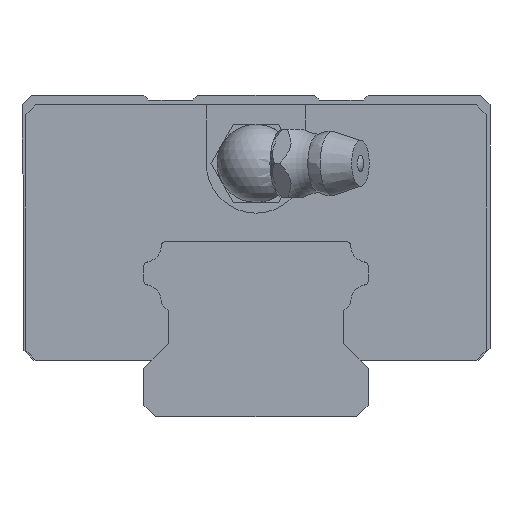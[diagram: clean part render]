
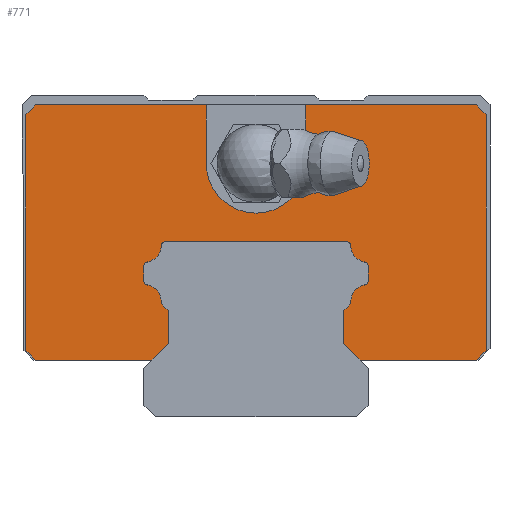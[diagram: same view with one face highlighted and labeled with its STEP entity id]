
A CAD part, front view. The second image highlights one B-rep face of the part: STEP entity #771.
In plain terms, the highlighted planar face has unit normal (0, -1, 0).
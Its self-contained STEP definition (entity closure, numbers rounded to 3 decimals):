
#564=CIRCLE('',#3371,0.5);
#566=CIRCLE('',#3374,1.7);
#568=CIRCLE('',#3377,0.5);
#570=CIRCLE('',#3381,0.5);
#572=CIRCLE('',#3384,1.7);
#574=CIRCLE('',#3387,0.5);
#576=CIRCLE('',#3391,0.5);
#578=CIRCLE('',#3394,1.7);
#580=CIRCLE('',#3397,0.5);
#582=CIRCLE('',#3401,0.5);
#584=CIRCLE('',#3404,1.7);
#586=CIRCLE('',#3407,0.5);
#609=CIRCLE('',#3481,5.1);
#771=ADVANCED_FACE('',(#1005),#884,.T.);
#884=PLANE('',#3482);
#1005=FACE_OUTER_BOUND('',#1214,.T.);
#1214=EDGE_LOOP('',(#1889,#1890,#1891,#1892,#1893,#1894,#1895,#1896,#1897,
#1898,#1899,#1900,#1901,#1902,#1903,#1904,#1905,#1906,#1907,#1908,#1909,
#1910,#1911,#1912,#1913,#1914,#1915,#1916,#1917,#1918,#1919,#1920,#1921,
#1922));
#1889=ORIENTED_EDGE('',*,*,#2560,.F.);
#1890=ORIENTED_EDGE('',*,*,#2563,.F.);
#1891=ORIENTED_EDGE('',*,*,#2566,.F.);
#1892=ORIENTED_EDGE('',*,*,#2569,.F.);
#1893=ORIENTED_EDGE('',*,*,#2572,.F.);
#1894=ORIENTED_EDGE('',*,*,#2575,.F.);
#1895=ORIENTED_EDGE('',*,*,#2578,.F.);
#1896=ORIENTED_EDGE('',*,*,#2581,.F.);
#1897=ORIENTED_EDGE('',*,*,#2584,.F.);
#1898=ORIENTED_EDGE('',*,*,#2587,.F.);
#1899=ORIENTED_EDGE('',*,*,#2590,.F.);
#1900=ORIENTED_EDGE('',*,*,#2593,.F.);
#1901=ORIENTED_EDGE('',*,*,#2596,.F.);
#1902=ORIENTED_EDGE('',*,*,#2599,.F.);
#1903=ORIENTED_EDGE('',*,*,#2602,.F.);
#1904=ORIENTED_EDGE('',*,*,#2605,.F.);
#1905=ORIENTED_EDGE('',*,*,#2608,.F.);
#1906=ORIENTED_EDGE('',*,*,#2611,.F.);
#1907=ORIENTED_EDGE('',*,*,#2614,.F.);
#1908=ORIENTED_EDGE('',*,*,#2617,.F.);
#1909=ORIENTED_EDGE('',*,*,#2620,.F.);
#1910=ORIENTED_EDGE('',*,*,#2625,.T.);
#1911=ORIENTED_EDGE('',*,*,#2663,.T.);
#1912=ORIENTED_EDGE('',*,*,#2660,.T.);
#1913=ORIENTED_EDGE('',*,*,#2665,.T.);
#1914=ORIENTED_EDGE('',*,*,#2671,.T.);
#1915=ORIENTED_EDGE('',*,*,#2681,.F.);
#1916=ORIENTED_EDGE('',*,*,#2682,.F.);
#1917=ORIENTED_EDGE('',*,*,#2683,.F.);
#1918=ORIENTED_EDGE('',*,*,#2667,.T.);
#1919=ORIENTED_EDGE('',*,*,#2672,.T.);
#1920=ORIENTED_EDGE('',*,*,#2656,.T.);
#1921=ORIENTED_EDGE('',*,*,#2662,.T.);
#1922=ORIENTED_EDGE('',*,*,#2556,.T.);
#2219=VERTEX_POINT('',#5018);
#2220=VERTEX_POINT('',#5020);
#2222=VERTEX_POINT('',#5026);
#2224=VERTEX_POINT('',#5032);
#2226=VERTEX_POINT('',#5038);
#2228=VERTEX_POINT('',#5044);
#2230=VERTEX_POINT('',#5050);
#2232=VERTEX_POINT('',#5056);
#2234=VERTEX_POINT('',#5062);
#2236=VERTEX_POINT('',#5068);
#2238=VERTEX_POINT('',#5074);
#2240=VERTEX_POINT('',#5080);
#2242=VERTEX_POINT('',#5086);
#2244=VERTEX_POINT('',#5092);
#2246=VERTEX_POINT('',#5098);
#2248=VERTEX_POINT('',#5104);
#2250=VERTEX_POINT('',#5110);
#2252=VERTEX_POINT('',#5116);
#2254=VERTEX_POINT('',#5122);
#2256=VERTEX_POINT('',#5128);
#2258=VERTEX_POINT('',#5134);
#2260=VERTEX_POINT('',#5140);
#2262=VERTEX_POINT('',#5146);
#2264=VERTEX_POINT('',#5154);
#2282=VERTEX_POINT('',#5233);
#2283=VERTEX_POINT('',#5235);
#2285=VERTEX_POINT('',#5241);
#2286=VERTEX_POINT('',#5243);
#2287=VERTEX_POINT('',#5251);
#2288=VERTEX_POINT('',#5255);
#2289=VERTEX_POINT('',#5257);
#2292=VERTEX_POINT('',#5263);
#2301=VERTEX_POINT('',#5295);
#2302=VERTEX_POINT('',#5297);
#2556=EDGE_CURVE('',#2220,#2219,#2872,.T.);
#2560=EDGE_CURVE('',#2222,#2219,#2876,.T.);
#2563=EDGE_CURVE('',#2224,#2222,#2879,.T.);
#2566=EDGE_CURVE('',#2226,#2224,#2882,.T.);
#2569=EDGE_CURVE('',#2228,#2226,#564,.T.);
#2572=EDGE_CURVE('',#2230,#2228,#566,.T.);
#2575=EDGE_CURVE('',#2232,#2230,#568,.T.);
#2578=EDGE_CURVE('',#2234,#2232,#2888,.T.);
#2581=EDGE_CURVE('',#2236,#2234,#570,.T.);
#2584=EDGE_CURVE('',#2238,#2236,#572,.T.);
#2587=EDGE_CURVE('',#2240,#2238,#574,.T.);
#2590=EDGE_CURVE('',#2242,#2240,#2894,.T.);
#2593=EDGE_CURVE('',#2244,#2242,#576,.T.);
#2596=EDGE_CURVE('',#2246,#2244,#578,.T.);
#2599=EDGE_CURVE('',#2248,#2246,#580,.T.);
#2602=EDGE_CURVE('',#2250,#2248,#2900,.T.);
#2605=EDGE_CURVE('',#2252,#2250,#582,.T.);
#2608=EDGE_CURVE('',#2254,#2252,#584,.T.);
#2611=EDGE_CURVE('',#2256,#2254,#586,.T.);
#2614=EDGE_CURVE('',#2258,#2256,#2906,.T.);
#2617=EDGE_CURVE('',#2260,#2258,#2909,.T.);
#2620=EDGE_CURVE('',#2262,#2260,#2912,.T.);
#2625=EDGE_CURVE('',#2262,#2264,#2917,.T.);
#2656=EDGE_CURVE('',#2283,#2282,#2935,.T.);
#2660=EDGE_CURVE('',#2286,#2285,#2938,.T.);
#2662=EDGE_CURVE('',#2282,#2220,#2940,.T.);
#2663=EDGE_CURVE('',#2264,#2286,#2941,.T.);
#2665=EDGE_CURVE('',#2285,#2287,#2943,.T.);
#2667=EDGE_CURVE('',#2289,#2288,#2945,.T.);
#2671=EDGE_CURVE('',#2287,#2292,#2949,.T.);
#2672=EDGE_CURVE('',#2288,#2283,#2950,.T.);
#2681=EDGE_CURVE('',#2301,#2292,#2951,.T.);
#2682=EDGE_CURVE('',#2302,#2301,#609,.T.);
#2683=EDGE_CURVE('',#2289,#2302,#2952,.T.);
#2872=LINE('',#5019,#3124);
#2876=LINE('',#5027,#3128);
#2879=LINE('',#5033,#3131);
#2882=LINE('',#5039,#3134);
#2888=LINE('',#5063,#3140);
#2894=LINE('',#5087,#3146);
#2900=LINE('',#5111,#3152);
#2906=LINE('',#5135,#3158);
#2909=LINE('',#5141,#3161);
#2912=LINE('',#5147,#3164);
#2917=LINE('',#5155,#3169);
#2935=LINE('',#5234,#3187);
#2938=LINE('',#5242,#3190);
#2940=LINE('',#5246,#3192);
#2941=LINE('',#5248,#3193);
#2943=LINE('',#5252,#3195);
#2945=LINE('',#5256,#3197);
#2949=LINE('',#5264,#3201);
#2950=LINE('',#5266,#3202);
#2951=LINE('',#5294,#3203);
#2952=LINE('',#5298,#3204);
#3124=VECTOR('',#3942,1.);
#3128=VECTOR('',#3948,1.);
#3131=VECTOR('',#3953,1.);
#3134=VECTOR('',#3958,1.);
#3140=VECTOR('',#3984,1.);
#3146=VECTOR('',#4010,1.);
#3152=VECTOR('',#4036,1.);
#3158=VECTOR('',#4062,1.);
#3161=VECTOR('',#4067,1.);
#3164=VECTOR('',#4072,1.);
#3169=VECTOR('',#4079,1.);
#3187=VECTOR('',#4183,1.);
#3190=VECTOR('',#4190,1.);
#3192=VECTOR('',#4194,1.);
#3193=VECTOR('',#4197,1.);
#3195=VECTOR('',#4201,1.);
#3197=VECTOR('',#4205,1.);
#3201=VECTOR('',#4209,1.);
#3202=VECTOR('',#4212,1.);
#3203=VECTOR('',#4251,1.);
#3204=VECTOR('',#4254,1.);
#3371=AXIS2_PLACEMENT_3D('',#5045,#3964,#3965);
#3374=AXIS2_PLACEMENT_3D('',#5051,#3971,#3972);
#3377=AXIS2_PLACEMENT_3D('',#5057,#3978,#3979);
#3381=AXIS2_PLACEMENT_3D('',#5069,#3990,#3991);
#3384=AXIS2_PLACEMENT_3D('',#5075,#3997,#3998);
#3387=AXIS2_PLACEMENT_3D('',#5081,#4004,#4005);
#3391=AXIS2_PLACEMENT_3D('',#5093,#4016,#4017);
#3394=AXIS2_PLACEMENT_3D('',#5099,#4023,#4024);
#3397=AXIS2_PLACEMENT_3D('',#5105,#4030,#4031);
#3401=AXIS2_PLACEMENT_3D('',#5117,#4042,#4043);
#3404=AXIS2_PLACEMENT_3D('',#5123,#4049,#4050);
#3407=AXIS2_PLACEMENT_3D('',#5129,#4056,#4057);
#3481=AXIS2_PLACEMENT_3D('',#5296,#4252,#4253);
#3482=AXIS2_PLACEMENT_3D('',#5299,#4255,#4256);
#3942=DIRECTION('',(1.,0.,0.));
#3948=DIRECTION('',(-0.707,0.,-0.707));
#3953=DIRECTION('',(0.,0.,-1.));
#3958=DIRECTION('',(0.707,0.,-0.707));
#3964=DIRECTION('',(0.,-1.,0.));
#3965=DIRECTION('',(0.,0.,-1.));
#3971=DIRECTION('',(0.,1.,0.));
#3972=DIRECTION('',(0.,0.,-1.));
#3978=DIRECTION('',(0.,-1.,0.));
#3979=DIRECTION('',(0.,0.,-1.));
#3984=DIRECTION('',(0.,0.,-1.));
#3990=DIRECTION('',(0.,-1.,0.));
#3991=DIRECTION('',(0.,0.,-1.));
#3997=DIRECTION('',(0.,1.,0.));
#3998=DIRECTION('',(0.,0.,-1.));
#4004=DIRECTION('',(0.,-1.,0.));
#4005=DIRECTION('',(0.,0.,-1.));
#4010=DIRECTION('',(-1.,0.,0.));
#4016=DIRECTION('',(0.,-1.,0.));
#4017=DIRECTION('',(0.,0.,-1.));
#4023=DIRECTION('',(0.,1.,0.));
#4024=DIRECTION('',(0.,0.,-1.));
#4030=DIRECTION('',(0.,-1.,0.));
#4031=DIRECTION('',(0.,0.,-1.));
#4036=DIRECTION('',(0.,0.,1.));
#4042=DIRECTION('',(0.,-1.,0.));
#4043=DIRECTION('',(0.,0.,-1.));
#4049=DIRECTION('',(0.,1.,0.));
#4050=DIRECTION('',(0.,0.,-1.));
#4056=DIRECTION('',(0.,-1.,0.));
#4057=DIRECTION('',(0.,0.,-1.));
#4062=DIRECTION('',(0.707,0.,0.707));
#4067=DIRECTION('',(0.,0.,1.));
#4072=DIRECTION('',(-0.707,0.,0.707));
#4079=DIRECTION('',(1.,0.,0.));
#4183=DIRECTION('',(0.,0.,-1.));
#4190=DIRECTION('',(0.,0.,1.));
#4194=DIRECTION('',(0.707,0.,-0.707));
#4197=DIRECTION('',(0.707,0.,0.707));
#4201=DIRECTION('',(-0.707,0.,0.707));
#4205=DIRECTION('',(-1.,0.,0.));
#4209=DIRECTION('',(-1.,0.,0.));
#4212=DIRECTION('',(-0.707,0.,-0.707));
#4251=DIRECTION('',(0.,0.,1.));
#4252=DIRECTION('',(0.,-1.,0.));
#4253=DIRECTION('',(1.,0.,0.));
#4254=DIRECTION('',(0.,0.,-1.));
#4255=DIRECTION('',(0.,-1.,0.));
#4256=DIRECTION('',(0.,0.,-1.));
#5018=CARTESIAN_POINT('',(-10.7,-19.,5.8));
#5019=CARTESIAN_POINT('',(-22.6,-19.,5.8));
#5020=CARTESIAN_POINT('',(-22.6,-19.,5.8));
#5026=CARTESIAN_POINT('',(-9.,-19.,7.5));
#5027=CARTESIAN_POINT('',(4.75,-19.,21.25));
#5032=CARTESIAN_POINT('',(-9.,-19.,10.9));
#5033=CARTESIAN_POINT('',(-9.,-19.,26.));
#5038=CARTESIAN_POINT('',(-9.58,-19.,11.48));
#5039=CARTESIAN_POINT('',(-12.05,-19.,13.95));
#5044=CARTESIAN_POINT('',(-9.726,-19.,11.834));
#5045=CARTESIAN_POINT('',(-9.226,-19.,11.833));
#5050=CARTESIAN_POINT('',(-11.097,-19.,13.504));
#5051=CARTESIAN_POINT('',(-11.426,-19.,11.836));
#5056=CARTESIAN_POINT('',(-11.5,-19.,13.995));
#5057=CARTESIAN_POINT('',(-11.,-19.,13.995));
#5062=CARTESIAN_POINT('',(-11.5,-19.,15.412));
#5063=CARTESIAN_POINT('',(-11.5,-19.,26.));
#5068=CARTESIAN_POINT('',(-11.097,-19.,15.902));
#5069=CARTESIAN_POINT('',(-11.,-19.,15.412));
#5074=CARTESIAN_POINT('',(-9.727,-19.,17.516));
#5075=CARTESIAN_POINT('',(-11.426,-19.,17.57));
#5080=CARTESIAN_POINT('',(-9.227,-19.,18.));
#5081=CARTESIAN_POINT('',(-9.227,-19.,17.5));
#5086=CARTESIAN_POINT('',(9.227,-19.,18.));
#5087=CARTESIAN_POINT('',(0.,-19.,18.));
#5092=CARTESIAN_POINT('',(9.727,-19.,17.516));
#5093=CARTESIAN_POINT('',(9.227,-19.,17.5));
#5098=CARTESIAN_POINT('',(11.097,-19.,15.902));
#5099=CARTESIAN_POINT('',(11.426,-19.,17.57));
#5104=CARTESIAN_POINT('',(11.5,-19.,15.412));
#5105=CARTESIAN_POINT('',(11.,-19.,15.412));
#5110=CARTESIAN_POINT('',(11.5,-19.,13.995));
#5111=CARTESIAN_POINT('',(11.5,-19.,26.));
#5116=CARTESIAN_POINT('',(11.097,-19.,13.504));
#5117=CARTESIAN_POINT('',(11.,-19.,13.995));
#5122=CARTESIAN_POINT('',(9.726,-19.,11.834));
#5123=CARTESIAN_POINT('',(11.426,-19.,11.836));
#5128=CARTESIAN_POINT('',(9.58,-19.,11.48));
#5129=CARTESIAN_POINT('',(9.226,-19.,11.833));
#5134=CARTESIAN_POINT('',(9.,-19.,10.9));
#5135=CARTESIAN_POINT('',(12.05,-19.,13.95));
#5140=CARTESIAN_POINT('',(9.,-19.,7.5));
#5141=CARTESIAN_POINT('',(9.,-19.,26.));
#5146=CARTESIAN_POINT('',(10.7,-19.,5.8));
#5147=CARTESIAN_POINT('',(-4.75,-19.,21.25));
#5154=CARTESIAN_POINT('',(22.6,-19.,5.8));
#5155=CARTESIAN_POINT('',(-22.6,-19.,5.8));
#5233=CARTESIAN_POINT('',(-23.6,-19.,6.8));
#5234=CARTESIAN_POINT('',(-23.6,-19.,31.));
#5235=CARTESIAN_POINT('',(-23.6,-19.,31.));
#5241=CARTESIAN_POINT('',(23.6,-19.,31.));
#5242=CARTESIAN_POINT('',(23.6,-19.,6.8));
#5243=CARTESIAN_POINT('',(23.6,-19.,6.8));
#5246=CARTESIAN_POINT('',(-23.6,-19.,6.8));
#5248=CARTESIAN_POINT('',(22.6,-19.,5.8));
#5251=CARTESIAN_POINT('',(22.6,-19.,32.));
#5252=CARTESIAN_POINT('',(23.6,-19.,31.));
#5255=CARTESIAN_POINT('',(-22.6,-19.,32.));
#5256=CARTESIAN_POINT('',(22.6,-19.,32.));
#5257=CARTESIAN_POINT('',(-5.1,-19.,32.));
#5263=CARTESIAN_POINT('',(5.1,-19.,32.));
#5264=CARTESIAN_POINT('',(22.6,-19.,32.));
#5266=CARTESIAN_POINT('',(-22.6,-19.,32.));
#5294=CARTESIAN_POINT('',(5.1,-19.,26.));
#5295=CARTESIAN_POINT('',(5.1,-19.,26.));
#5296=CARTESIAN_POINT('',(0.,-19.,26.));
#5297=CARTESIAN_POINT('',(-5.1,-19.,26.));
#5298=CARTESIAN_POINT('',(-5.1,-19.,32.));
#5299=CARTESIAN_POINT('',(0.,-19.,26.));
